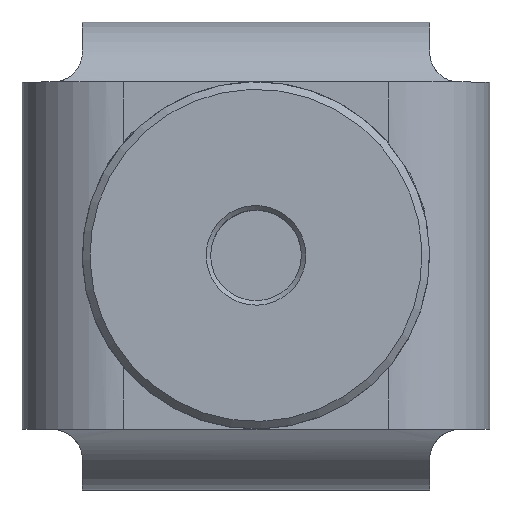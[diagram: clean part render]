
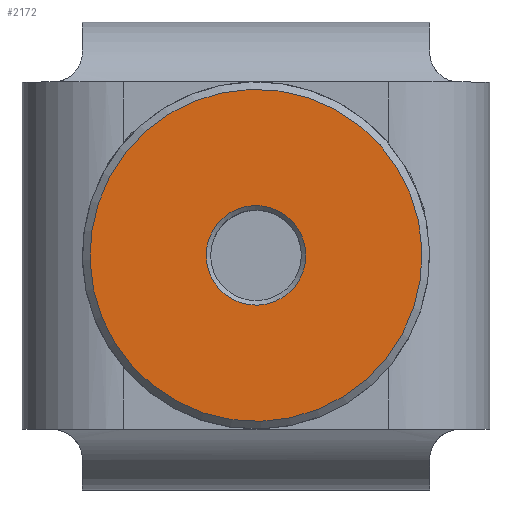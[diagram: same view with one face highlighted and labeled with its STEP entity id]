
A CAD part, top view. The second image highlights one B-rep face of the part: STEP entity #2172.
In plain terms, the highlighted planar face has unit normal (0, 0, 1).
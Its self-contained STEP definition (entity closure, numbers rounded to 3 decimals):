
#434=PLANE('',#2405);
#491=FACE_BOUND('',#800,.T.);
#612=FACE_OUTER_BOUND('',#799,.T.);
#799=EDGE_LOOP('',(#1793));
#800=EDGE_LOOP('',(#1794));
#940=CIRCLE('',#2403,11.);
#942=CIRCLE('',#2406,3.3);
#1107=VERTEX_POINT('',#3859);
#1109=VERTEX_POINT('',#3864);
#1358=EDGE_CURVE('',#1107,#1107,#940,.T.);
#1360=EDGE_CURVE('',#1109,#1109,#942,.T.);
#1793=ORIENTED_EDGE('',*,*,#1358,.F.);
#1794=ORIENTED_EDGE('',*,*,#1360,.F.);
#2172=ADVANCED_FACE('',(#612,#491),#434,.F.);
#2403=AXIS2_PLACEMENT_3D('',#3860,#2938,#2939);
#2405=AXIS2_PLACEMENT_3D('',#3863,#2942,#2943);
#2406=AXIS2_PLACEMENT_3D('',#3865,#2944,#2945);
#2938=DIRECTION('center_axis',(0.,0.,
-1.));
#2939=DIRECTION('ref_axis',(-0.62,-0.784,0.));
#2942=DIRECTION('center_axis',(0.,0.,
-1.));
#2943=DIRECTION('ref_axis',(-0.62,-0.784,0.));
#2944=DIRECTION('center_axis',(0.,0.,
1.));
#2945=DIRECTION('ref_axis',(-0.62,-0.784,0.));
#3859=CARTESIAN_POINT('',(-31.974,1.091,24.302));
#3860=CARTESIAN_POINT('Origin',(-38.796,-7.539,24.302));
#3863=CARTESIAN_POINT('Origin',(-38.796,-7.539,24.302));
#3864=CARTESIAN_POINT('',(-36.749,-4.95,24.302));
#3865=CARTESIAN_POINT('Origin',(-38.796,-7.539,24.302));
